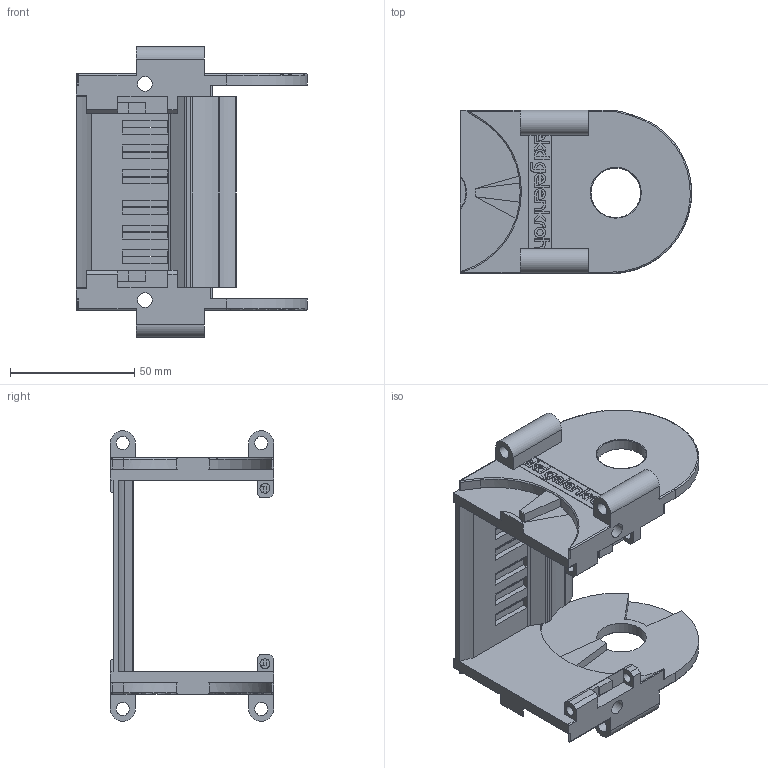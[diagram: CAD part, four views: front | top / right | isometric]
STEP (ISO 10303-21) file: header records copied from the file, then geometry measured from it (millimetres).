
FILE_DESCRIPTION((''),'2;1');
FILE_NAME('C:\Uebbing\PARAMETERKETTEN\KOLIBRI\Kol_65_095_5\Kol_65_095_5 Stirnflansch Bohrung.stp','2012-03-06T08:31:43',('Uebbing'),(''),'Autodesk Inventor 10','Autodesk Inventor 10','');
FILE_SCHEMA(('AUTOMOTIVE_DESIGN { 1 0 10303 214 1 1 1 1 }'));
Length unit declared in the file: millimetre
Products named in the file (1): Kol_65_095_5 Stirnflansch Bohrung
Bounding box: 92.98 x 65.7 x 117 mm (x, y, z)
Volume: 18904.9 mm3; surface area: 47655 mm2
Topology: 1 solids, 1 shells, 405 faces, 1132 edges, 727 vertices
Faces by surface type: plane 278, cylinder 111, torus 7, sphere 4, bspline 3, cone 2
Full cylindrical faces by diameter (mm): 2.514 x1, 4 x4, 4.414 x1, 5.2 x4, 6 x2, 20 x2
Entity records: 12917 total; most frequent: CARTESIAN_POINT 2357, ORIENTED_EDGE 2206, DIRECTION 2162, EDGE_CURVE 1103, VECTOR 834, LINE 834, VERTEX_POINT 718, AXIS2_PLACEMENT_3D 664
